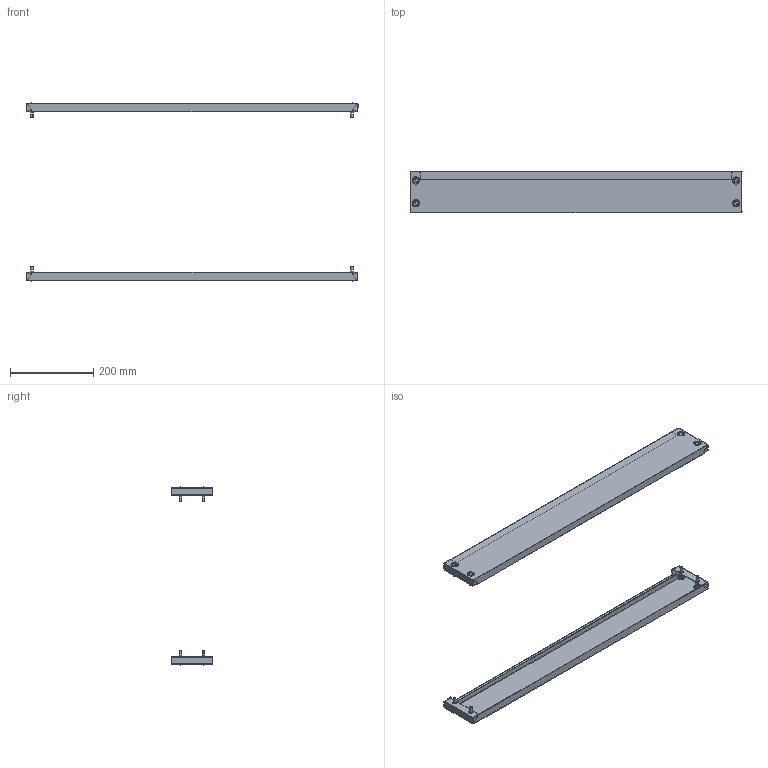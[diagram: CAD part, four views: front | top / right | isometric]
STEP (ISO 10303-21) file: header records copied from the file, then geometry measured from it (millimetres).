
FILE_DESCRIPTION (( 'STEP AP203' ), '1' );
FILE_NAME ('R5FZ8-450.STEP', '2025-06-18T08:39:27', ( '' ), ( '' ), 'SwSTEP 2.0', 'SolidWorks 2022', '' );
FILE_SCHEMA (( 'CONFIG_CONTROL_DESIGN' ));
Length unit declared in the file: millimetre
Products named in the file (5): 6 DIN 6798 A Zinc; R5FZ8-450; RB.1055.00.00.0 simple_-03 (800); Plug_11.5-13Д18ЧК_-00; M6x16 DIN 912 HX cl.4,8 Zinc_stright
Assembly tree (26 placements, depth 2):
  R5FZ8-450
    RB.1055.00.00.0 simple_-03 (800)  x2
    M6x16 DIN 912 HX cl.4,8 Zinc_stright  x8
    6 DIN 6798 A Zinc  x8
    Plug_11.5-13Д18ЧК_-00  x8
Bounding box: 799 x 100.05 x 428.5 mm (x, y, z)
Volume: 384268.8 mm3; surface area: 520303.7 mm2
Topology: 26 solids, 26 shells, 1196 faces, 3456 edges, 2112 vertices
Faces by surface type: plane 700, bspline 208, cylinder 128, cone 96, torus 48, sphere 16
Entity records: 9921 total; most frequent: CARTESIAN_POINT 2626, ORIENTED_EDGE 1352, DIRECTION 1188, EDGE_CURVE 676, VECTOR 448, LINE 448, VERTEX_POINT 444, AXIS2_PLACEMENT_3D 370
